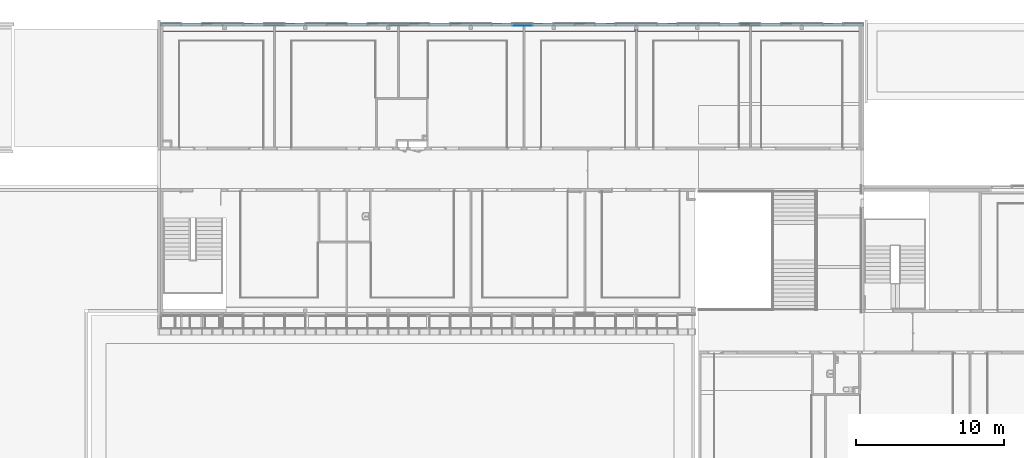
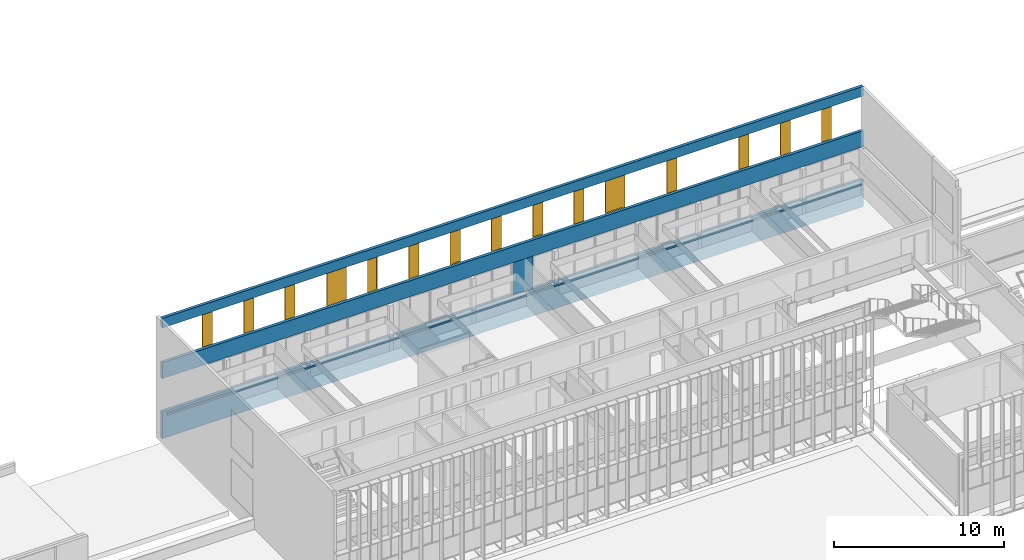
"""IFC2X3 building model written with IfcOpenShell, lengths in centimetres."""

from ifc_helpers import new_model, entity, si_unit, converted_unit, derived_unit, direction, frame, frame_2d, origin, place, context, subcontext, project, spatial, rectangle, extrude, faceted_brep, source, transform, mapped, material, material_list, layer, layer_set, layer_usage, type_object, type_shapes, element, fill, save


model = new_model("IFC2X3")

# Units and contexts
model_context = context("Model", 3, precision=0.001, world=origin(), true_north=direction((6.12303176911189e-17, 1.0)))
body_context = subcontext(model_context, "Body", "Model", "MODEL_VIEW")
ifc_project = project(units=[si_unit("LENGTHUNIT", "METRE", prefix="CENTI"), si_unit("AREAUNIT", "SQUARE_METRE"), si_unit("VOLUMEUNIT", "CUBIC_METRE"), converted_unit("PLANEANGLEUNIT", "DEGREE", entity("IfcRatioMeasure", 0.0174532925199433), si_unit("PLANEANGLEUNIT", "RADIAN"), dimensions=[0, 0, 0, 0, 0, 0, 0]), si_unit("MASSUNIT", "GRAM", prefix="KILO"), derived_unit("MASSDENSITYUNIT", [(si_unit("MASSUNIT", "GRAM", prefix="KILO"), 1), (si_unit("LENGTHUNIT", "METRE"), -3)]), si_unit("TIMEUNIT", "SECOND"), si_unit("FREQUENCYUNIT", "HERTZ"), si_unit("THERMODYNAMICTEMPERATUREUNIT", "DEGREE_CELSIUS"), derived_unit("THERMALTRANSMITTANCEUNIT", [(si_unit("MASSUNIT", "GRAM", prefix="KILO"), 1), (si_unit("THERMODYNAMICTEMPERATUREUNIT", "KELVIN"), -1), (si_unit("TIMEUNIT", "SECOND"), -3)]), derived_unit("VOLUMETRICFLOWRATEUNIT", [(si_unit("LENGTHUNIT", "METRE"), 3), (si_unit("TIMEUNIT", "SECOND"), -1)]), si_unit("ELECTRICCURRENTUNIT", "AMPERE"), si_unit("ELECTRICVOLTAGEUNIT", "VOLT"), si_unit("POWERUNIT", "WATT"), si_unit("FORCEUNIT", "NEWTON", prefix="KILO"), si_unit("ILLUMINANCEUNIT", "LUX"), si_unit("LUMINOUSFLUXUNIT", "LUMEN"), si_unit("LUMINOUSINTENSITYUNIT", "CANDELA"), derived_unit("USERDEFINED", [(si_unit("MASSUNIT", "GRAM", prefix="KILO"), -1), (si_unit("LENGTHUNIT", "METRE"), -2), (si_unit("TIMEUNIT", "SECOND"), 3), (si_unit("LUMINOUSFLUXUNIT", "LUMEN"), 1)]), derived_unit("LINEARVELOCITYUNIT", [(si_unit("LENGTHUNIT", "METRE"), 1), (si_unit("TIMEUNIT", "SECOND"), -1)]), si_unit("PRESSUREUNIT", "PASCAL"), derived_unit("USERDEFINED", [(si_unit("LENGTHUNIT", "METRE"), -2), (si_unit("MASSUNIT", "GRAM", prefix="KILO"), 1), (si_unit("TIMEUNIT", "SECOND"), -2)])], contexts=[model_context])

# Site, building, storey
site_placement = place(None, frame((-2781.94577612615, 7442.24238424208, 0.0)))
site = spatial("IfcSite", under=ifc_project, at=site_placement, Name="Default", CompositionType="ELEMENT")
building_placement = place(site_placement, origin())
building = spatial("IfcBuilding", under=site, at=building_placement, CompositionType="ELEMENT")
storey_1_placement = place(building_placement, frame((0.0, 0.0, 422.0)))
storey_1 = spatial("IfcBuildingStorey", under=building, at=storey_1_placement, Name="Toiture - Cuisine", CompositionType="ELEMENT", Elevation=421.999999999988)

# Wall, openings
ifc_material_1 = material(Name="Aluminium bardage")
ifc_layer_1 = layer(ifc_material_1, 0.5)
ifc_material_2 = material(Name="01 - Lame d'air")
ifc_layer_2 = layer(ifc_material_2, 1.5)
ifc_material_3 = material(Name="00 - Isolant")
ifc_layer_3 = layer(ifc_material_3, 18.0)
ifc_layer_set_1 = layer_set([ifc_layer_1, ifc_layer_2, ifc_layer_3], Name="Mur de base:04 - Parement - ITE 18cm + vide 2cm")
ifc_layer_usage_1 = layer_usage(ifc_layer_set_1, "AXIS2", "NEGATIVE", 10.0)
wall_type_1 = type_object("IfcWallType", Name="Mur de base:04 - Parement - ITE 18cm + vide 2cm", PredefinedType="STANDARD", material=ifc_layer_set_1)
wall_1_placement = place(building_placement, frame((-8409.49987766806, 20.0, 313.0)))
wall_1 = element("IfcWallStandardCase", 1, at=wall_1_placement, inside=storey_1, type_object=wall_type_1, material=ifc_layer_usage_1, Name="Mur de base:04 - Parement - ITE 18cm + vide 2cm", ObjectType="Mur de base:04 - Parement - ITE 18cm + vide 2cm", context=body_context, shape_type="SweptSolid", body=[
    extrude(rectangle(XDim=4756.50000114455, YDim=20.0, at=frame_2d((2378.25000057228, 8.88178419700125e-16), x_axis=(-1.0, 0.0))), origin(), (0.0, 0.0, 1.0), 863.000000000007),
])
opening_1_placement = place(wall_1_placement, origin())
element("IfcOpeningElement", 2, at=opening_1_placement, cuts=wall_1, Name="Mur de base:04 - Parement - ITE 18cm + vide 2cm", ObjectType="Opening", context=body_context, shape_type="SweptSolid", body=[
    extrude(rectangle(XDim=249.0, YDim=4760.00000009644, at=frame_2d((5.6843418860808e-14, 9.09494701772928e-13), x_axis=(1.0, 0.0))), frame((2380.0, -25.24, 669.0), z_axis=(0.0, 1.0, 0.0), x_axis=(0.0, 0.0, 1.0)), (0.0, 0.0, 1.0), 50.48),
])
opening_2_placement = place(wall_1_placement, origin())
element("IfcOpeningElement", 3, at=opening_2_placement, cuts=wall_1, Name="Mur de base:04 - Parement - ITE 18cm + vide 2cm", ObjectType="Opening", context=body_context, shape_type="SweptSolid", body=[
    extrude(rectangle(XDim=237.5, YDim=4759.99983610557, at=frame_2d((0.0, -4.9737991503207e-14), x_axis=(0.0, 1.0))), frame((2379.99991805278, -25.24, 311.25), z_axis=(0.0, 1.0, 0.0), x_axis=(-1.0, 0.0, 0.0)), (0.0, 0.0, 1.0), 50.48),
])
opening_3_placement = place(wall_1_placement, frame((2521.03125006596, -10.0, 551.0)))
opening_3 = element("IfcOpeningElement", 4, at=opening_3_placement, cuts=wall_1, Name="Ouvrant vitré:Ouvrant vitré (70cm):1", ObjectType="Opening", context=body_context, shape_type="SweptSolid", body=[
    extrude(rectangle(XDim=236.0, YDim=68.0000000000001, at=frame_2d((118.0, 34.0000000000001), x_axis=(1.0, 0.0))), frame((0.0, 0.0, 0.0), z_axis=(0.0, 1.0, 0.0), x_axis=(0.0, 0.0, 1.0)), (0.0, 0.0, 1.0), 20.0),
])
opening_4_placement = place(wall_1_placement, frame((3013.25000006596, -10.0, 551.0)))
opening_4 = element("IfcOpeningElement", 5, at=opening_4_placement, cuts=wall_1, Name="Ouvrant vitré:Ouvrant POMPIERS Facade nord (140cm):1", ObjectType="Opening", context=body_context, shape_type="SweptSolid", body=[
    extrude(rectangle(XDim=236.0, YDim=133.5, at=frame_2d((118.0, 66.7499999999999), x_axis=(1.0, 0.0))), frame((0.0, 0.0, 0.0), z_axis=(0.0, 1.0, 0.0), x_axis=(0.0, 0.0, 1.0)), (0.0, 0.0, 1.0), 20.0),
])
opening_5_placement = place(wall_1_placement, frame((2801.03125006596, -10.0, 551.0)))
opening_5 = element("IfcOpeningElement", 6, at=opening_5_placement, cuts=wall_1, Name="Ouvrant vitré:Ouvrant vitré (70cm):1", ObjectType="Opening", context=body_context, shape_type="SweptSolid", body=[
    extrude(rectangle(XDim=236.0, YDim=68.0000000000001, at=frame_2d((118.0, 34.0000000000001), x_axis=(1.0, 0.0))), frame((0.0, 0.0, 0.0), z_axis=(0.0, 1.0, 0.0), x_axis=(0.0, 0.0, 1.0)), (0.0, 0.0, 1.0), 20.0),
])
opening_6_placement = place(wall_1_placement, frame((1401.03125006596, -10.0, 551.0)))
opening_6 = element("IfcOpeningElement", 7, at=opening_6_placement, cuts=wall_1, Name="Ouvrant vitré:Ouvrant vitré (70cm):1", ObjectType="Opening", context=body_context, shape_type="SweptSolid", body=[
    extrude(rectangle(XDim=236.0, YDim=68.0000000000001, at=frame_2d((118.0, 34.0000000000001), x_axis=(1.0, 0.0))), frame((0.0, 0.0, 0.0), z_axis=(0.0, 1.0, 0.0), x_axis=(0.0, 0.0, 1.0)), (0.0, 0.0, 1.0), 20.0),
])
opening_7_placement = place(wall_1_placement, frame((1961.03125006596, -10.0, 551.0)))
opening_7 = element("IfcOpeningElement", 8, at=opening_7_placement, cuts=wall_1, Name="Ouvrant vitré:Ouvrant vitré (70cm):1", ObjectType="Opening", context=body_context, shape_type="SweptSolid", body=[
    extrude(rectangle(XDim=236.0, YDim=68.0000000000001, at=frame_2d((118.0, 34.0000000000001), x_axis=(1.0, 0.0))), frame((0.0, 0.0, 0.0), z_axis=(0.0, 1.0, 0.0), x_axis=(0.0, 0.0, 1.0)), (0.0, 0.0, 1.0), 20.0),
])
opening_8_placement = place(wall_1_placement, frame((1681.03125006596, -10.0, 551.0)))
opening_8 = element("IfcOpeningElement", 9, at=opening_8_placement, cuts=wall_1, Name="Ouvrant vitré:Ouvrant vitré (70cm):1", ObjectType="Opening", context=body_context, shape_type="SweptSolid", body=[
    extrude(rectangle(XDim=236.0, YDim=68.0000000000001, at=frame_2d((118.0, 34.0000000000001), x_axis=(1.0, 0.0))), frame((0.0, 0.0, 0.0), z_axis=(0.0, 1.0, 0.0), x_axis=(0.0, 0.0, 1.0)), (0.0, 0.0, 1.0), 20.0),
])
opening_9_placement = place(wall_1_placement, frame((2241.03125006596, -10.0, 551.0)))
opening_9 = element("IfcOpeningElement", 10, at=opening_9_placement, cuts=wall_1, Name="Ouvrant vitré:Ouvrant vitré (70cm):1", ObjectType="Opening", context=body_context, shape_type="SweptSolid", body=[
    extrude(rectangle(XDim=236.0, YDim=68.0000000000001, at=frame_2d((118.0, 34.0000000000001), x_axis=(1.0, 0.0))), frame((0.0, 0.0, 0.0), z_axis=(0.0, 1.0, 0.0), x_axis=(0.0, 0.0, 1.0)), (0.0, 0.0, 1.0), 20.0),
])
opening_10_placement = place(wall_1_placement, frame((1123.25000006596, -10.0, 551.0)))
opening_10 = element("IfcOpeningElement", 11, at=opening_10_placement, cuts=wall_1, Name="Ouvrant vitré:Ouvrant POMPIERS Facade nord (140cm):1", ObjectType="Opening", context=body_context, shape_type="SweptSolid", body=[
    extrude(rectangle(XDim=236.0, YDim=133.5, at=frame_2d((118.0, 66.7499999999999), x_axis=(1.0, 0.0))), frame((0.0, 0.0, 0.0), z_axis=(0.0, 1.0, 0.0), x_axis=(0.0, 0.0, 1.0)), (0.0, 0.0, 1.0), 20.0),
])
opening_11_placement = place(wall_1_placement, frame((841.031250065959, -10.0, 551.0)))
opening_11 = element("IfcOpeningElement", 12, at=opening_11_placement, cuts=wall_1, Name="Ouvrant vitré:Ouvrant vitré (70cm):1", ObjectType="Opening", context=body_context, shape_type="SweptSolid", body=[
    extrude(rectangle(XDim=236.0, YDim=68.0000000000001, at=frame_2d((118.0, 34.0000000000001), x_axis=(1.0, 0.0))), frame((0.0, 0.0, 0.0), z_axis=(0.0, 1.0, 0.0), x_axis=(0.0, 0.0, 1.0)), (0.0, 0.0, 1.0), 20.0),
])
opening_12_placement = place(wall_1_placement, frame((561.03125006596, -10.0, 551.0)))
opening_12 = element("IfcOpeningElement", 13, at=opening_12_placement, cuts=wall_1, Name="Ouvrant vitré:Ouvrant vitré (70cm):1", ObjectType="Opening", context=body_context, shape_type="SweptSolid", body=[
    extrude(rectangle(XDim=236.0, YDim=68.0000000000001, at=frame_2d((118.0, 34.0000000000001), x_axis=(1.0, 0.0))), frame((0.0, 0.0, 0.0), z_axis=(0.0, 1.0, 0.0), x_axis=(0.0, 0.0, 1.0)), (0.0, 0.0, 1.0), 20.0),
])
opening_13_placement = place(wall_1_placement, frame((281.031250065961, -10.0, 551.0)))
opening_13 = element("IfcOpeningElement", 14, at=opening_13_placement, cuts=wall_1, Name="Ouvrant vitré:Ouvrant vitré (70cm):1", ObjectType="Opening", context=body_context, shape_type="SweptSolid", body=[
    extrude(rectangle(XDim=236.0, YDim=68.0000000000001, at=frame_2d((118.0, 34.0000000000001), x_axis=(1.0, 0.0))), frame((0.0, 0.0, 0.0), z_axis=(0.0, 1.0, 0.0), x_axis=(0.0, 0.0, 1.0)), (0.0, 0.0, 1.0), 20.0),
])
opening_14_placement = place(wall_1_placement, frame((4201.03125013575, -10.0, 551.0)))
opening_14 = element("IfcOpeningElement", 15, at=opening_14_placement, cuts=wall_1, Name="Ouvrant vitré:Ouvrant vitré (70cm):1", ObjectType="Opening", context=body_context, shape_type="SweptSolid", body=[
    extrude(rectangle(XDim=236.0, YDim=68.0000000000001, at=frame_2d((118.0, 34.0000000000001), x_axis=(1.0, 0.0))), frame((0.0, 0.0, 0.0), z_axis=(0.0, 1.0, 0.0), x_axis=(0.0, 0.0, 1.0)), (0.0, 0.0, 1.0), 20.0),
])
opening_15_placement = place(wall_1_placement, frame((3921.03125013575, -10.0, 551.0)))
opening_15 = element("IfcOpeningElement", 16, at=opening_15_placement, cuts=wall_1, Name="Ouvrant vitré:Ouvrant vitré (70cm):1", ObjectType="Opening", context=body_context, shape_type="SweptSolid", body=[
    extrude(rectangle(XDim=236.0, YDim=68.0000000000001, at=frame_2d((118.0, 34.0000000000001), x_axis=(1.0, 0.0))), frame((0.0, 0.0, 0.0), z_axis=(0.0, 1.0, 0.0), x_axis=(0.0, 0.0, 1.0)), (0.0, 0.0, 1.0), 20.0),
])
opening_16_placement = place(wall_1_placement, frame((3430.86875006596, -10.0, 551.0)))
opening_16 = element("IfcOpeningElement", 17, at=opening_16_placement, cuts=wall_1, Name="Ouvrant vitré:Ouvrant vitré (70cm):1", ObjectType="Opening", context=body_context, shape_type="SweptSolid", body=[
    extrude(rectangle(XDim=236.0, YDim=68.0000000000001, at=frame_2d((118.0, 34.0000000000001), x_axis=(1.0, 0.0))), frame((0.0, 0.0, 0.0), z_axis=(0.0, 1.0, 0.0), x_axis=(0.0, 0.0, 1.0)), (0.0, 0.0, 1.0), 20.0),
])
opening_17_placement = place(wall_1_placement, frame((4481.03125013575, -10.0, 551.0)))
opening_17 = element("IfcOpeningElement", 18, at=opening_17_placement, cuts=wall_1, Name="Ouvrant vitré:Ouvrant vitré (70cm):1", ObjectType="Opening", context=body_context, shape_type="SweptSolid", body=[
    extrude(rectangle(XDim=236.0, YDim=68.0000000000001, at=frame_2d((118.0, 34.0000000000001), x_axis=(1.0, 0.0))), frame((0.0, 0.0, 0.0), z_axis=(0.0, 1.0, 0.0), x_axis=(0.0, 0.0, 1.0)), (0.0, 0.0, 1.0), 20.0),
])

# Storey
storey_2_placement = place(building_placement, frame((0.0, 0.0, 774.0)))
storey_2 = spatial("IfcBuildingStorey", under=building, at=storey_2_placement, Name="TR - N02 - ARCH", CompositionType="ELEMENT", Elevation=774.0)

# Window
ifc_material_4 = material(Name="Verre")
ifc_material_5 = material(Name="Aluminium")
ifc_material_list_1 = material_list([ifc_material_4, ifc_material_5])
ifc_material_list_2 = material_list([ifc_material_4, ifc_material_5])
window_style_1 = type_object("IfcWindowStyle", Name="Ouvrant vitré (70cm)", ConstructionType="NOTDEFINED", OperationType="NOTDEFINED", ParameterTakesPrecedence=False, Sizeable=False, material=ifc_material_list_2)
shared_shape_1 = source(origin(), body_context, "Body", "Brep", [
    faceted_brep([(61.5, 15.2499999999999, 229.5), (61.5, 15.2499999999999, 6.49999999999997), (6.50000000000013, 15.25, 6.49999999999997), (6.50000000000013, 15.25, 229.5), (61.5, 13.2499999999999, 229.5), (61.5, 13.2499999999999, 6.49999999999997), (6.50000000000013, 13.25, 6.49999999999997), (6.50000000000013, 13.25, 229.5)], [[[0, 1, 2, 3]], [[1, 0, 4, 5]], [[2, 1, 5, 6]], [[3, 2, 6, 7]], [[4, 7, 6, 5]], [[0, 3, 7, 4]]]),
    faceted_brep([(64.5, 16.4283152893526, 232.5), (64.5, 16.4283152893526, 3.50000000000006), (3.50000000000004, 16.4283152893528, 3.50000000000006), (3.50000000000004, 16.4283152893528, 232.5), (61.5, 16.4283152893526, 229.5), (6.50000000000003, 16.4283152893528, 229.5), (6.50000000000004, 16.4283152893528, 6.50000000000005), (61.5, 16.4283152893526, 6.50000000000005), (64.5, 12.9283152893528, 232.5), (64.5, 12.9283152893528, 3.50000000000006), (3.50000000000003, 12.928315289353, 3.50000000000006), (3.50000000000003, 12.928315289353, 232.5), (6.50000000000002, 12.928315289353, 229.5), (6.50000000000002, 12.928315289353, 6.50000000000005), (61.5, 12.9283152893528, 6.50000000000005), (61.5, 12.9283152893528, 229.5)], [[[0, 1, 2, 3], [4, 5, 6, 7]], [[1, 0, 8, 9]], [[2, 1, 9, 10]], [[3, 2, 10, 11]], [[6, 5, 12, 13]], [[7, 6, 13, 14]], [[4, 7, 14, 15]], [[15, 14, 13, 12], [8, 11, 10, 9]], [[0, 3, 11, 8]], [[5, 4, 15, 12]]], outer=[[True, False], [True], [True], [True], [True], [True], [True], [False, True], [True], [True]]),
    faceted_brep([(63.0, 16.4283152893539, 231.0), (63.0, 17.9283152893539, 231.0), (63.0, 17.9283152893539, 5.0), (63.0, 16.4283152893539, 5.0), (68.0, 17.9283152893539, 0.0), (0.0, 17.9283152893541, 0.0), (0.0, 17.9283152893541, 236.0), (68.0, 17.9283152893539, 236.0), (5.0, 17.9283152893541, 231.0), (5.0, 17.9283152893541, 5.0), (5.0, 16.4283152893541, 5.0), (5.0, 16.4283152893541, 231.0), (64.5, 16.4283152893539, 232.5), (3.50000000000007, 16.4283152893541, 232.5), (3.50000000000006, 16.4283152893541, 3.50000000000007), (64.5, 16.4283152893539, 3.50000000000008), (64.5000000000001, 12.9283152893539, 232.5), (64.5, 12.9283152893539, 3.50000000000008), (3.50000000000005, 12.9283152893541, 3.50000000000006), (3.5000000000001, 12.9283152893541, 232.5), (68.0, 12.9283152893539, 236.0), (0.0, 12.9283152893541, 236.0), (0.0, 12.9283152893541, 0.0), (68.0, 12.9283152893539, 0.0)], [[[0, 1, 2, 3]], [[4, 5, 6, 7], [1, 8, 9, 2]], [[3, 2, 9, 10]], [[3, 10, 11, 0], [12, 13, 14, 15]], [[16, 12, 15, 17]], [[17, 15, 14, 18]], [[17, 18, 19, 16], [20, 21, 22, 23]], [[7, 20, 23, 4]], [[4, 23, 22, 5]], [[10, 9, 8, 11]], [[18, 14, 13, 19]], [[5, 22, 21, 6]], [[11, 8, 1, 0]], [[19, 13, 12, 16]], [[6, 21, 20, 7]]], outer=[[True], [True, False], [True], [False, True], [True], [True], [False, True], [True], [True], [True], [True], [True], [True], [True], [True]]),
])
type_shapes(window_style_1, [shared_shape_1])
window_1_placement = place(opening_3_placement, origin())
window_1 = element("IfcWindow", 19, at=window_1_placement, inside=storey_2, type_object=window_style_1, material=ifc_material_list_1, Name="Ouvrant vitré:Ouvrant vitré (70cm)", ObjectType="Ouvrant vitré:Ouvrant vitré (70cm)", OverallHeight=236.0, OverallWidth=68.0000000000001, context=body_context, shape_type="MappedRepresentation", body=[
    mapped(shared_shape_1, transform((0.0, 0.0, 0.0), scale=1.0)),
])

fill(opening_3, window_1)

ifc_material_list_3 = material_list([ifc_material_4, ifc_material_5])
window_2_placement = place(opening_5_placement, origin())
window_2 = element("IfcWindow", 20, at=window_2_placement, inside=storey_2, type_object=window_style_1, material=ifc_material_list_3, Name="Ouvrant vitré:Ouvrant vitré (70cm)", ObjectType="Ouvrant vitré:Ouvrant vitré (70cm)", OverallHeight=236.0, OverallWidth=68.0000000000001, context=body_context, shape_type="MappedRepresentation", body=[
    mapped(shared_shape_1, transform((0.0, 0.0, 0.0), scale=1.0)),
])

fill(opening_5, window_2)

ifc_material_list_4 = material_list([ifc_material_4, ifc_material_5])
window_3_placement = place(opening_6_placement, origin())
window_3 = element("IfcWindow", 21, at=window_3_placement, inside=storey_2, type_object=window_style_1, material=ifc_material_list_4, Name="Ouvrant vitré:Ouvrant vitré (70cm)", ObjectType="Ouvrant vitré:Ouvrant vitré (70cm)", OverallHeight=236.0, OverallWidth=68.0000000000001, context=body_context, shape_type="MappedRepresentation", body=[
    mapped(shared_shape_1, transform((0.0, 0.0, 0.0), scale=1.0)),
])

fill(opening_6, window_3)

ifc_material_list_5 = material_list([ifc_material_4, ifc_material_5])
window_4_placement = place(opening_7_placement, origin())
window_4 = element("IfcWindow", 22, at=window_4_placement, inside=storey_2, type_object=window_style_1, material=ifc_material_list_5, Name="Ouvrant vitré:Ouvrant vitré (70cm)", ObjectType="Ouvrant vitré:Ouvrant vitré (70cm)", OverallHeight=236.0, OverallWidth=68.0000000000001, context=body_context, shape_type="MappedRepresentation", body=[
    mapped(shared_shape_1, transform((0.0, 0.0, 0.0), scale=1.0)),
])

fill(opening_7, window_4)

ifc_material_list_6 = material_list([ifc_material_4, ifc_material_5])
window_5_placement = place(opening_8_placement, origin())
window_5 = element("IfcWindow", 23, at=window_5_placement, inside=storey_2, type_object=window_style_1, material=ifc_material_list_6, Name="Ouvrant vitré:Ouvrant vitré (70cm)", ObjectType="Ouvrant vitré:Ouvrant vitré (70cm)", OverallHeight=236.0, OverallWidth=68.0000000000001, context=body_context, shape_type="MappedRepresentation", body=[
    mapped(shared_shape_1, transform((0.0, 0.0, 0.0), scale=1.0)),
])

fill(opening_8, window_5)

ifc_material_list_7 = material_list([ifc_material_4, ifc_material_5])
window_6_placement = place(opening_9_placement, origin())
window_6 = element("IfcWindow", 24, at=window_6_placement, inside=storey_2, type_object=window_style_1, material=ifc_material_list_7, Name="Ouvrant vitré:Ouvrant vitré (70cm)", ObjectType="Ouvrant vitré:Ouvrant vitré (70cm)", OverallHeight=236.0, OverallWidth=68.0000000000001, context=body_context, shape_type="MappedRepresentation", body=[
    mapped(shared_shape_1, transform((0.0, 0.0, 0.0), scale=1.0)),
])

fill(opening_9, window_6)

ifc_material_list_8 = material_list([ifc_material_4, ifc_material_5])
window_7_placement = place(opening_11_placement, origin())
window_7 = element("IfcWindow", 25, at=window_7_placement, inside=storey_2, type_object=window_style_1, material=ifc_material_list_8, Name="Ouvrant vitré:Ouvrant vitré (70cm)", ObjectType="Ouvrant vitré:Ouvrant vitré (70cm)", OverallHeight=236.0, OverallWidth=68.0000000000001, context=body_context, shape_type="MappedRepresentation", body=[
    mapped(shared_shape_1, transform((0.0, 0.0, 0.0), scale=1.0)),
])

fill(opening_11, window_7)

ifc_material_list_9 = material_list([ifc_material_4, ifc_material_5])
window_8_placement = place(opening_12_placement, origin())
window_8 = element("IfcWindow", 26, at=window_8_placement, inside=storey_2, type_object=window_style_1, material=ifc_material_list_9, Name="Ouvrant vitré:Ouvrant vitré (70cm)", ObjectType="Ouvrant vitré:Ouvrant vitré (70cm)", OverallHeight=236.0, OverallWidth=68.0000000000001, context=body_context, shape_type="MappedRepresentation", body=[
    mapped(shared_shape_1, transform((0.0, 0.0, 0.0), scale=1.0)),
])

fill(opening_12, window_8)

ifc_material_list_10 = material_list([ifc_material_4, ifc_material_5])
window_9_placement = place(opening_13_placement, origin())
window_9 = element("IfcWindow", 27, at=window_9_placement, inside=storey_2, type_object=window_style_1, material=ifc_material_list_10, Name="Ouvrant vitré:Ouvrant vitré (70cm)", ObjectType="Ouvrant vitré:Ouvrant vitré (70cm)", OverallHeight=236.0, OverallWidth=68.0000000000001, context=body_context, shape_type="MappedRepresentation", body=[
    mapped(shared_shape_1, transform((0.0, 0.0, 0.0), scale=1.0)),
])

fill(opening_13, window_9)

ifc_material_list_11 = material_list([ifc_material_4, ifc_material_5])
window_10_placement = place(opening_14_placement, origin())
window_10 = element("IfcWindow", 28, at=window_10_placement, inside=storey_2, type_object=window_style_1, material=ifc_material_list_11, Name="Ouvrant vitré:Ouvrant vitré (70cm)", ObjectType="Ouvrant vitré:Ouvrant vitré (70cm)", OverallHeight=236.0, OverallWidth=68.0000000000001, context=body_context, shape_type="MappedRepresentation", body=[
    mapped(shared_shape_1, transform((0.0, 0.0, 0.0), scale=1.0)),
])

fill(opening_14, window_10)

ifc_material_list_12 = material_list([ifc_material_4, ifc_material_5])
window_11_placement = place(opening_15_placement, origin())
window_11 = element("IfcWindow", 29, at=window_11_placement, inside=storey_2, type_object=window_style_1, material=ifc_material_list_12, Name="Ouvrant vitré:Ouvrant vitré (70cm)", ObjectType="Ouvrant vitré:Ouvrant vitré (70cm)", OverallHeight=236.0, OverallWidth=68.0000000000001, context=body_context, shape_type="MappedRepresentation", body=[
    mapped(shared_shape_1, transform((0.0, 0.0, 0.0), scale=1.0)),
])

fill(opening_15, window_11)

ifc_material_list_13 = material_list([ifc_material_4, ifc_material_5])
window_12_placement = place(opening_16_placement, origin())
window_12 = element("IfcWindow", 30, at=window_12_placement, inside=storey_2, type_object=window_style_1, material=ifc_material_list_13, Name="Ouvrant vitré:Ouvrant vitré (70cm)", ObjectType="Ouvrant vitré:Ouvrant vitré (70cm)", OverallHeight=236.0, OverallWidth=68.0000000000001, context=body_context, shape_type="MappedRepresentation", body=[
    mapped(shared_shape_1, transform((0.0, 0.0, 0.0), scale=1.0)),
])

fill(opening_16, window_12)

ifc_material_list_14 = material_list([ifc_material_4, ifc_material_5])
window_13_placement = place(opening_17_placement, origin())
window_13 = element("IfcWindow", 31, at=window_13_placement, inside=storey_2, type_object=window_style_1, material=ifc_material_list_14, Name="Ouvrant vitré:Ouvrant vitré (70cm)", ObjectType="Ouvrant vitré:Ouvrant vitré (70cm)", OverallHeight=236.0, OverallWidth=68.0000000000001, context=body_context, shape_type="MappedRepresentation", body=[
    mapped(shared_shape_1, transform((0.0, 0.0, 0.0), scale=1.0)),
])

fill(opening_17, window_13)

ifc_material_list_15 = material_list([ifc_material_4, ifc_material_5])
ifc_material_list_16 = material_list([ifc_material_4, ifc_material_5])
window_style_2 = type_object("IfcWindowStyle", Name="Ouvrant POMPIERS Facade nord (140cm)", ConstructionType="NOTDEFINED", OperationType="NOTDEFINED", ParameterTakesPrecedence=False, Sizeable=False, material=ifc_material_list_16)
shared_shape_2 = source(origin(), body_context, "Body", "Brep", [
    faceted_brep([(127.0, 15.2499999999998, 229.5), (127.0, 15.2499999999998, 6.49999999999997), (6.50000000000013, 15.2500000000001, 6.49999999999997), (6.50000000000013, 15.2500000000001, 229.5), (127.0, 13.2499999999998, 229.5), (127.0, 13.2499999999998, 6.49999999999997), (6.50000000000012, 13.2500000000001, 6.49999999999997), (6.50000000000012, 13.2500000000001, 229.5)], [[[0, 1, 2, 3]], [[1, 0, 4, 5]], [[2, 1, 5, 6]], [[3, 2, 6, 7]], [[4, 7, 6, 5]], [[0, 3, 7, 4]]]),
    faceted_brep([(130.0, 16.4283152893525, 232.5), (130.0, 16.4283152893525, 3.50000000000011), (3.50000000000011, 16.4283152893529, 3.50000000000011), (3.50000000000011, 16.4283152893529, 232.5), (127.0, 16.4283152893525, 229.5), (6.50000000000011, 16.4283152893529, 229.5), (6.50000000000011, 16.4283152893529, 6.50000000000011), (127.0, 16.4283152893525, 6.50000000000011), (130.0, 12.9283152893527, 232.5), (130.0, 12.9283152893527, 3.50000000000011), (3.5000000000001, 12.9283152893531, 3.50000000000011), (3.5000000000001, 12.9283152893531, 232.5), (6.50000000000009, 12.9283152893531, 229.5), (6.50000000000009, 12.9283152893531, 6.50000000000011), (127.0, 12.9283152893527, 6.50000000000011), (127.0, 12.9283152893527, 229.5)], [[[0, 1, 2, 3], [4, 5, 6, 7]], [[1, 0, 8, 9]], [[2, 1, 9, 10]], [[3, 2, 10, 11]], [[6, 5, 12, 13]], [[7, 6, 13, 14]], [[4, 7, 14, 15]], [[15, 14, 13, 12], [8, 11, 10, 9]], [[0, 3, 11, 8]], [[5, 4, 15, 12]]], outer=[[True, False], [True], [True], [True], [True], [True], [True], [False, True], [True], [True]]),
    faceted_brep([(128.5, 16.4283152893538, 231.0), (128.5, 17.9283152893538, 231.0), (128.5, 17.9283152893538, 5.0), (128.5, 16.4283152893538, 5.0), (133.5, 17.9283152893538, 0.0), (0.0, 17.9283152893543, 0.0), (0.0, 17.9283152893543, 236.0), (133.5, 17.9283152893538, 236.0), (5.0, 17.9283152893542, 231.0), (5.0, 17.9283152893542, 5.0), (5.0, 16.4283152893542, 5.0), (5.0, 16.4283152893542, 231.0), (130.0, 16.4283152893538, 232.5), (3.50000000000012, 16.4283152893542, 232.5), (3.50000000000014, 16.4283152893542, 3.50000000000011), (130.0, 16.4283152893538, 3.50000000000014), (130.0, 12.9283152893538, 232.5), (130.0, 12.9283152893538, 3.50000000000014), (3.50000000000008, 12.9283152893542, 3.50000000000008), (3.50000000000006, 12.9283152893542, 232.5), (133.5, 12.9283152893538, 236.0), (0.0, 12.9283152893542, 236.0), (0.0, 12.9283152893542, 0.0), (133.5, 12.9283152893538, 0.0)], [[[0, 1, 2, 3]], [[4, 5, 6, 7], [1, 8, 9, 2]], [[3, 2, 9, 10]], [[3, 10, 11, 0], [12, 13, 14, 15]], [[16, 12, 15, 17]], [[17, 15, 14, 18]], [[17, 18, 19, 16], [20, 21, 22, 23]], [[7, 20, 23, 4]], [[4, 23, 22, 5]], [[10, 9, 8, 11]], [[18, 14, 13, 19]], [[5, 22, 21, 6]], [[11, 8, 1, 0]], [[19, 13, 12, 16]], [[6, 21, 20, 7]]], outer=[[True], [True, False], [True], [False, True], [True], [True], [False, True], [True], [True], [True], [True], [True], [True], [True], [True]]),
])
type_shapes(window_style_2, [shared_shape_2])
window_14_placement = place(opening_4_placement, origin())
window_14 = element("IfcWindow", 32, at=window_14_placement, inside=storey_2, type_object=window_style_2, material=ifc_material_list_15, Name="Ouvrant vitré:Ouvrant POMPIERS Facade nord (140cm)", ObjectType="Ouvrant vitré:Ouvrant POMPIERS Facade nord (140cm)", OverallHeight=236.0, OverallWidth=133.5, context=body_context, shape_type="MappedRepresentation", body=[
    mapped(shared_shape_2, transform((0.0, 0.0, 0.0), scale=1.0)),
])

fill(opening_4, window_14)

ifc_material_list_17 = material_list([ifc_material_4, ifc_material_5])
window_15_placement = place(opening_10_placement, origin())
window_15 = element("IfcWindow", 33, at=window_15_placement, inside=storey_2, type_object=window_style_2, material=ifc_material_list_17, Name="Ouvrant vitré:Ouvrant POMPIERS Facade nord (140cm)", ObjectType="Ouvrant vitré:Ouvrant POMPIERS Facade nord (140cm)", OverallHeight=236.0, OverallWidth=133.5, context=body_context, shape_type="MappedRepresentation", body=[
    mapped(shared_shape_2, transform((0.0, 0.0, 0.0), scale=1.0)),
])

fill(opening_10, window_15)

# Wall
ifc_material_6 = material(Name="Métal déployé")
ifc_layer_4 = layer(ifc_material_6, 0.3)
ifc_material_7 = material(Name="Métal - Alu brossé")
ifc_layer_5 = layer(ifc_material_7, 1.7)
ifc_layer_set_2 = layer_set([ifc_layer_4, ifc_layer_5], Name="Mur de base:07 -Tôle alu sur CP")
ifc_layer_usage_2 = layer_usage(ifc_layer_set_2, "AXIS2", "NEGATIVE", 1.0)
wall_type_2 = type_object("IfcWallType", Name="Mur de base:07 -Tôle alu sur CP", PredefinedType="STANDARD", material=ifc_layer_set_2)
wall_2_placement = place(building_placement, frame((-5892.75004159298, 11.7000000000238, 512.0), z_axis=(0.0, 0.0, 1.0), x_axis=(-1.0, 0.0, 0.0)))
element("IfcWallStandardCase", 34, at=wall_2_placement, inside=storey_1, type_object=wall_type_2, material=ifc_layer_usage_2, Name="Mur de base:07 -Tôle alu sur CP", ObjectType="Mur de base:07 -Tôle alu sur CP", context=body_context, shape_type="SweptSolid", body=[
    extrude(rectangle(XDim=133.5, YDim=2.0, at=frame_2d((66.75, 0.0), x_axis=(-1.0, 0.0))), origin(), (0.0, 0.0, 1.0), 231.0),
])

# Wall, openings
ifc_material_8 = material(Name="Pin")
ifc_layer_6 = layer(ifc_material_8, 2.0)
ifc_material_9 = material(Name="Mur par défaut")
ifc_layer_7 = layer(ifc_material_9, 8.0)
ifc_layer_set_3 = layer_set([ifc_layer_6, ifc_layer_7], Name="Mur de base:06 - cimaise R+2")
ifc_layer_usage_3 = layer_usage(ifc_layer_set_3, "AXIS2", "NEGATIVE", 5.0)
wall_type_3 = type_object("IfcWallType", Name="Mur de base:06 - cimaise R+2", PredefinedType="STANDARD", material=ifc_layer_set_3)
wall_3_placement = place(building_placement, frame((-3683.29987968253, -20.0, 497.392132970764), z_axis=(0.0, 0.0, 1.0), x_axis=(-1.0, 0.0, 0.0)))
wall_3 = element("IfcWallStandardCase", 35, at=wall_3_placement, inside=storey_1, type_object=wall_type_3, material=ifc_layer_usage_3, Name="Mur de base:06 - cimaise R+2", ObjectType="Mur de base:06 - cimaise R+2", context=body_context, shape_type="SweptSolid", body=[
    extrude(rectangle(XDim=4710.89999798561, YDim=10.0, at=frame_2d((2355.4499989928, 0.0), x_axis=(-1.0, 0.0))), origin(), (0.0, 0.0, 1.0), 12.6078670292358),
])
opening_18_placement = place(building_placement, frame((-3683.29987968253, -20.0, 497.392132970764), z_axis=(0.0, 0.0, 1.0), x_axis=(-1.0, 0.0, 0.0)))
element("IfcOpeningElement", 36, at=opening_18_placement, cuts=wall_3, Name="Mur de base:06 - cimaise R+2:1", ObjectType="Opening", context=body_context, shape_type="SweptSolid", body=[
    extrude(rectangle(XDim=12.6078670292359, YDim=10.0, at=frame_2d((5.41788836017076e-14, 0.0), x_axis=(1.0, 0.0))), frame((740.5, 0.0, 6.30393351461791), z_axis=(-1.0, 0.0, 0.0), x_axis=(0.0, 0.0, 1.0)), (0.0, 0.0, 1.0), 10.0000000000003),
])
opening_19_placement = place(building_placement, frame((-3683.29987968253, -20.0, 497.392132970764), z_axis=(0.0, 0.0, 1.0), x_axis=(-1.0, 0.0, 0.0)))
element("IfcOpeningElement", 37, at=opening_19_placement, cuts=wall_3, Name="Mur de base:06 - cimaise R+2:2", ObjectType="Opening", context=body_context, shape_type="SweptSolid", body=[
    extrude(rectangle(XDim=12.6078670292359, YDim=10.0, at=frame_2d((5.41788836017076e-14, 8.88178419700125e-16), x_axis=(1.0, 0.0))), frame((3960.5, 0.0, 6.30393351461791), z_axis=(-1.0, 0.0, 0.0), x_axis=(0.0, 0.0, 1.0)), (0.0, 0.0, 1.0), 10.0000000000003),
])
opening_20_placement = place(building_placement, frame((-3683.29987968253, -20.0, 497.392132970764), z_axis=(0.0, 0.0, 1.0), x_axis=(-1.0, 0.0, 0.0)))
element("IfcOpeningElement", 38, at=opening_20_placement, cuts=wall_3, Name="Mur de base:06 - cimaise R+2:3", ObjectType="Opening", context=body_context, shape_type="SweptSolid", body=[
    extrude(rectangle(XDim=12.6078670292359, YDim=10.0, at=frame_2d((5.41788836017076e-14, 8.88178419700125e-16), x_axis=(1.0, 0.0))), frame((3120.5, 0.0, 6.30393351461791), z_axis=(-1.0, 0.0, 0.0), x_axis=(0.0, 0.0, 1.0)), (0.0, 0.0, 1.0), 10.0000000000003),
])
opening_21_placement = place(building_placement, frame((-3683.29987968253, -20.0, 497.392132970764), z_axis=(0.0, 0.0, 1.0), x_axis=(-1.0, 0.0, 0.0)))
element("IfcOpeningElement", 39, at=opening_21_placement, cuts=wall_3, Name="Mur de base:06 - cimaise R+2:4", ObjectType="Opening", context=body_context, shape_type="SweptSolid", body=[
    extrude(rectangle(XDim=12.6078670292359, YDim=10.0, at=frame_2d((5.41788836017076e-14, 0.0), x_axis=(1.0, 0.0))), frame((2270.5, 0.0, 6.30393351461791), z_axis=(-1.0, 0.0, 0.0), x_axis=(0.0, 0.0, 1.0)), (0.0, 0.0, 1.0), 10.0000000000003),
])
opening_22_placement = place(building_placement, frame((-3683.29987968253, -20.0, 497.392132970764), z_axis=(0.0, 0.0, 1.0), x_axis=(-1.0, 0.0, 0.0)))
element("IfcOpeningElement", 40, at=opening_22_placement, cuts=wall_3, Name="Mur de base:06 - cimaise R+2:5", ObjectType="Opening", context=body_context, shape_type="SweptSolid", body=[
    extrude(rectangle(XDim=12.6078670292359, YDim=10.0, at=frame_2d((5.41788836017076e-14, 0.0), x_axis=(1.0, 0.0))), frame((1511.19999791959, 0.0, 6.30393351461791), z_axis=(-1.0, 0.0, 0.0), x_axis=(0.0, 0.0, 1.0)), (0.0, 0.0, 1.0), 10.0000000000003),
])

save(model, "model.ifc")
